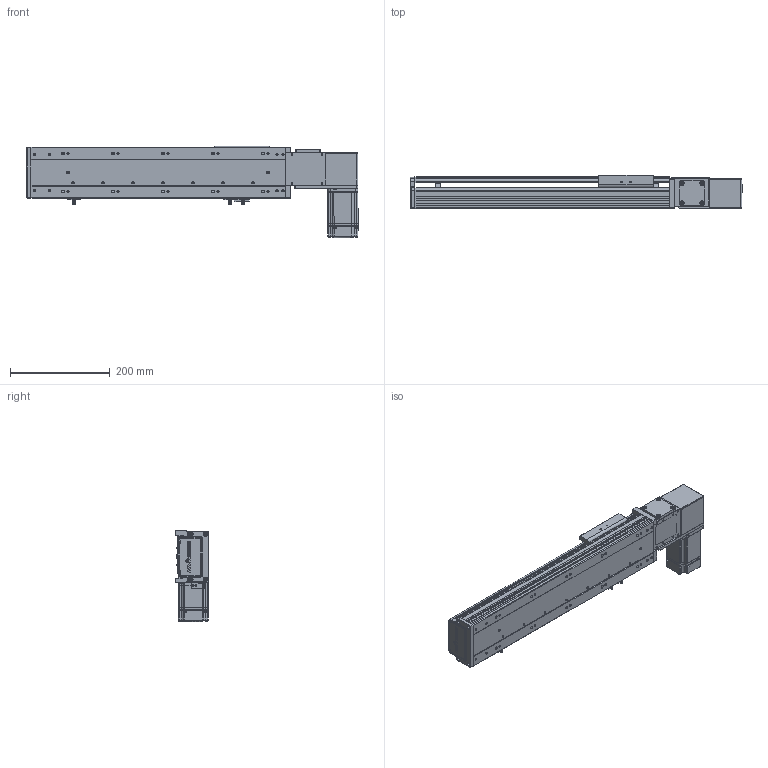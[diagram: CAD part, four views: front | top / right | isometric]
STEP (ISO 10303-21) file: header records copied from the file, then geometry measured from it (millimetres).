
FILE_DESCRIPTION (( 'STEP AP203' ), '1' );
FILE_NAME ('RY100-T-300-LK.SLDASM_300.step', '2024-04-25T05:36:20', ( '盈信电脑' ), ( '东莞市道滘镇水果街19号' ), 'SwSTEP 2.0', 'SolidWorks 2016', '' );
FILE_SCHEMA (( 'CONFIG_CONTROL_DESIGN' ));
Length unit declared in the file: millimetre
Products named in the file (14): RY100俋离覜茼え; RY100-T翋肮祭謫裔啣2; RY100-T-300-LK.SLDASM_300; RY80-T肮祭謫俋欶; RY100-T粣創揤踡裔; RY100-T肮祭謫翋盓傅釱; 1; 滅袉蝶18-10; 覜茼ん672; RY100-T左右折电机安装板; RY100-T-300-RK倰第奻裔; RY100-T-300-RK倰第菁釱_300; RY100綴裔啣; RY100-T肮祭謫臏賑輸
Assembly tree (17 placements, depth 2):
  RY100-T-300-LK.SLDASM_300
    RY100-T-300-RK倰第菁釱_300
    RY100-T-300-RK倰第奻裔
    RY100-T肮祭謫臏賑輸
    RY100綴裔啣
    覜茼ん672  x3
    RY100俋离覜茼え
    RY100-T肮祭謫翋盓傅釱
    滅袉蝶18-10  x2
    RY100-T翋肮祭謫裔啣2  x2
    RY80-T肮祭謫俋欶
    RY100-T左右折电机安装板
    1
    RY100-T粣創揤踡裔
Bounding box: 664 x 66 x 182.5 mm (x, y, z)
Volume: 1508178.5 mm3; surface area: 581570.7 mm2
Topology: 17 solids, 17 shells, 2115 faces, 5861 edges, 3807 vertices
Faces by surface type: plane 1181, cylinder 729, cone 127, bspline 78
Entity records: 66874 total; most frequent: CARTESIAN_POINT 16057, ORIENTED_EDGE 10458, DIRECTION 9941, EDGE_CURVE 5229, VECTOR 3449, LINE 3449, VERTEX_POINT 3443, AXIS2_PLACEMENT_3D 3246
